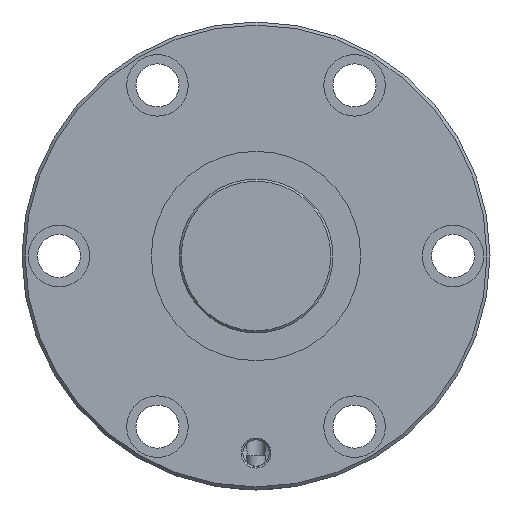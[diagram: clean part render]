
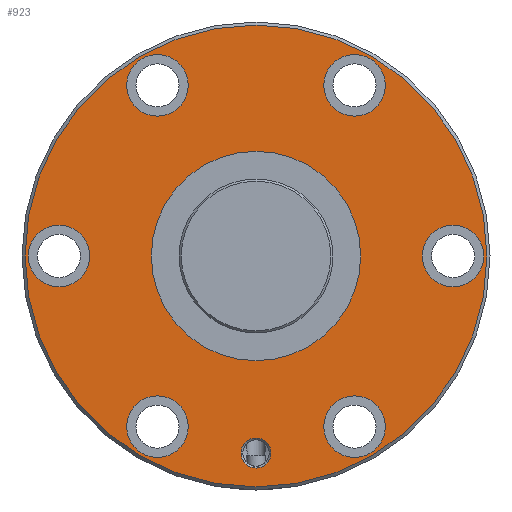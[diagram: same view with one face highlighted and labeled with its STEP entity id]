
A CAD part, left-side view. The second image highlights one B-rep face of the part: STEP entity #923.
In plain terms, the highlighted planar face has unit normal (-1, 0, 0).
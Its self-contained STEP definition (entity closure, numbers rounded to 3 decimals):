
#154=ORIENTED_EDGE('',*,*,#357,.T.);
#155=ORIENTED_EDGE('',*,*,#358,.T.);
#156=ORIENTED_EDGE('',*,*,#359,.T.);
#157=ORIENTED_EDGE('',*,*,#360,.T.);
#158=ORIENTED_EDGE('',*,*,#361,.T.);
#159=ORIENTED_EDGE('',*,*,#362,.T.);
#160=ORIENTED_EDGE('',*,*,#363,.T.);
#161=ORIENTED_EDGE('',*,*,#364,.T.);
#162=ORIENTED_EDGE('',*,*,#356,.F.);
#356=EDGE_CURVE('',#461,#461,#545,.T.);
#357=EDGE_CURVE('',#462,#462,#546,.T.);
#358=EDGE_CURVE('',#463,#463,#547,.F.);
#359=EDGE_CURVE('',#464,#464,#548,.T.);
#360=EDGE_CURVE('',#465,#465,#549,.T.);
#361=EDGE_CURVE('',#466,#466,#550,.T.);
#362=EDGE_CURVE('',#467,#467,#551,.T.);
#363=EDGE_CURVE('',#468,#468,#552,.T.);
#364=EDGE_CURVE('',#469,#469,#553,.T.);
#461=VERTEX_POINT('',#1551);
#462=VERTEX_POINT('',#1554);
#463=VERTEX_POINT('',#1556);
#464=VERTEX_POINT('',#1558);
#465=VERTEX_POINT('',#1560);
#466=VERTEX_POINT('',#1562);
#467=VERTEX_POINT('',#1564);
#468=VERTEX_POINT('',#1566);
#469=VERTEX_POINT('',#1568);
#545=CIRCLE('',#1030,75.);
#546=CIRCLE('',#1032,34.);
#547=CIRCLE('',#1033,10.);
#548=CIRCLE('',#1034,4.864);
#549=CIRCLE('',#1035,10.);
#550=CIRCLE('',#1036,10.);
#551=CIRCLE('',#1037,10.);
#552=CIRCLE('',#1038,10.);
#553=CIRCLE('',#1039,10.);
#626=EDGE_LOOP('',(#154));
#627=EDGE_LOOP('',(#155));
#628=EDGE_LOOP('',(#156));
#629=EDGE_LOOP('',(#157));
#630=EDGE_LOOP('',(#158));
#631=EDGE_LOOP('',(#159));
#632=EDGE_LOOP('',(#160));
#633=EDGE_LOOP('',(#161));
#634=EDGE_LOOP('',(#162));
#766=FACE_BOUND('',#626,.T.);
#767=FACE_BOUND('',#627,.T.);
#768=FACE_BOUND('',#628,.T.);
#769=FACE_BOUND('',#629,.T.);
#770=FACE_BOUND('',#630,.T.);
#771=FACE_BOUND('',#631,.T.);
#772=FACE_BOUND('',#632,.T.);
#773=FACE_BOUND('',#633,.T.);
#774=FACE_BOUND('',#634,.T.);
#888=PLANE('',#1031);
#923=ADVANCED_FACE('',(#766,#767,#768,#769,#770,#771,#772,#773,#774),#888,
 .T.);
#1030=AXIS2_PLACEMENT_3D('',#1550,#1198,#1199);
#1031=AXIS2_PLACEMENT_3D('',#1552,#1200,#1201);
#1032=AXIS2_PLACEMENT_3D('',#1553,#1202,#1203);
#1033=AXIS2_PLACEMENT_3D('',#1555,#1204,#1205);
#1034=AXIS2_PLACEMENT_3D('',#1557,#1206,#1207);
#1035=AXIS2_PLACEMENT_3D('',#1559,#1208,#1209);
#1036=AXIS2_PLACEMENT_3D('',#1561,#1210,#1211);
#1037=AXIS2_PLACEMENT_3D('',#1563,#1212,#1213);
#1038=AXIS2_PLACEMENT_3D('',#1565,#1214,#1215);
#1039=AXIS2_PLACEMENT_3D('',#1567,#1216,#1217);
#1198=DIRECTION('',(1.,0.,0.));
#1199=DIRECTION('',(0.,0.,-1.));
#1200=DIRECTION('',(-1.,0.,0.));
#1201=DIRECTION('',(0.,0.,1.));
#1202=DIRECTION('',(1.,0.,0.));
#1203=DIRECTION('',(0.,0.,-1.));
#1204=DIRECTION('',(-1.,0.,0.));
#1205=DIRECTION('',(0.,0.,1.));
#1206=DIRECTION('',(1.,0.,0.));
#1207=DIRECTION('',(0.,0.,-1.));
#1208=DIRECTION('',(1.,0.,0.));
#1209=DIRECTION('',(0.,0.,-1.));
#1210=DIRECTION('',(1.,0.,0.));
#1211=DIRECTION('',(0.,0.,-1.));
#1212=DIRECTION('',(1.,0.,0.));
#1213=DIRECTION('',(0.,0.,-1.));
#1214=DIRECTION('',(1.,0.,0.));
#1215=DIRECTION('',(0.,0.,-1.));
#1216=DIRECTION('',(1.,0.,0.));
#1217=DIRECTION('',(0.,0.,-1.));
#1550=CARTESIAN_POINT('',(0.,0.,0.));
#1551=CARTESIAN_POINT('',(0.,0.,-75.));
#1552=CARTESIAN_POINT('',(0.,75.,0.));
#1553=CARTESIAN_POINT('',(0.,0.,0.));
#1554=CARTESIAN_POINT('',(0.,0.,-34.));
#1555=CARTESIAN_POINT('',(0.,64.,0.));
#1556=CARTESIAN_POINT('',(0.,64.,10.));
#1557=CARTESIAN_POINT('',(0.,0.,-64.));
#1558=CARTESIAN_POINT('',(0.,0.,-68.864));
#1559=CARTESIAN_POINT('',(0.,-64.,0.));
#1560=CARTESIAN_POINT('',(0.,-64.,-10.));
#1561=CARTESIAN_POINT('',(0.,32.,55.426));
#1562=CARTESIAN_POINT('',(0.,32.,45.426));
#1563=CARTESIAN_POINT('',(0.,-32.,-55.426));
#1564=CARTESIAN_POINT('',(0.,-32.,-65.426));
#1565=CARTESIAN_POINT('',(0.,-32.,55.426));
#1566=CARTESIAN_POINT('',(0.,-32.,45.426));
#1567=CARTESIAN_POINT('',(0.,32.,-55.426));
#1568=CARTESIAN_POINT('',(0.,32.,-65.426));
